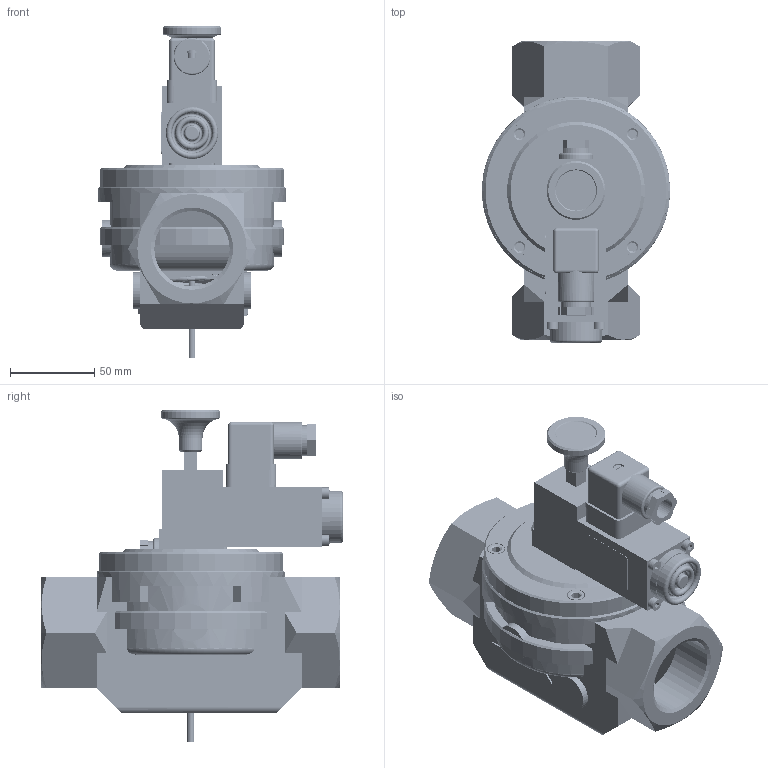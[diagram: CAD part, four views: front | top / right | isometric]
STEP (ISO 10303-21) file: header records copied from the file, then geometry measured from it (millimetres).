
FILE_DESCRIPTION( ( 'Unknown' ), '1' );
FILE_NAME( 'D:/Wyroby/Widoki gabarytowe/Zawory ZB/ZB_40/ZB_40.stp', 'Unknown', ( 'Unknown' ), ( 'Unknown' ), 'XStep 1.0', 'Unknown', ' ' );
FILE_SCHEMA( ( 'CONFIG_CONTROL_DESIGN' ) );
Length unit declared in the file: millimetre
Products named in the file (70): Assem1; Wa_209_01_01; Wa_209_01_00; Wa_102_01_00; Z³¹cze_C18211G21; Wa_020_01_01bez_korków; Gniazdo_wtykowe_B282; ElektromagnesZB_z_wtyczk¹; Wa_102_01_01; Wa_209_01_01bez_ko³ka; Ko³ek 3x40; cokó³_gniazda_wtykowego_B282; Wk³adka; Blaszka_uziemienia; Blaszka_fazy; Uszczelka_coko³u; Obudowa; Kostka; Uszczelka; Wkrêt_M3x30; Œruba_d³awika; Uszczelka_d³awika; Wa_020_01_01bez_gniazda; Wa_020_01_01_001gotowe; Wa_102_01_01_001zaci從i黎y; Wa_020_01_02_003zaci從i黎a; Wa_020_01_02_002; Wa_209_02_00_008; Wa_209_02_00_007; Wa_209_01_00_001; Wa_209_01_00_002; Wa_209_01_00_003; Wa_209_01_00_004; Wa_209_01_00_005; W-039M3x9; Wa_209_01_00_007; ImbusM4x65; Wa_209_01_00_006彡i從i黎a7; Wa_209_01_00_011; Uzwojenie_Wa_209_01_02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
Bounding box: 112 x 179.6 x 197.5 mm (x, y, z)
Volume: 2952024.3 mm3; surface area: 1198084.5 mm2
Topology: 238 solids, 238 shells, 4423 faces, 10616 edges, 6959 vertices
Faces by surface type: plane 2680, cylinder 1212, cone 369, torus 124, sphere 28, bspline 10
Full cylindrical faces by diameter (mm): 1.6 x8, 2 x5, 2.1 x8, 2.459 x13, 2.5 x6, 3 x28, 3.2 x16, 3.242 x12, 3.5 x20, 4 x31, 4.1 x3, 4.5 x26, 4.917 x19, 5 x20, 5.2 x4, 5.5 x30, 5.9 x3, 6 x31, 6.1 x3, 6.5 x10, 6.6 x12, 6.647 x3, 7 x26, 7.5 x5, 8 x20, 8.4 x4, 9 x8, 10 x12, 10.917 x3, 11 x17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
Entity records: 36681 total; most frequent: CARTESIAN_POINT 10029, DIRECTION 4990, ORIENTED_EDGE 4162, EDGE_CURVE 2081, AXIS2_PLACEMENT_3D 1863, EDGE_LOOP 1631, VERTEX_POINT 1554, FACE_OUTER_BOUND 1313
